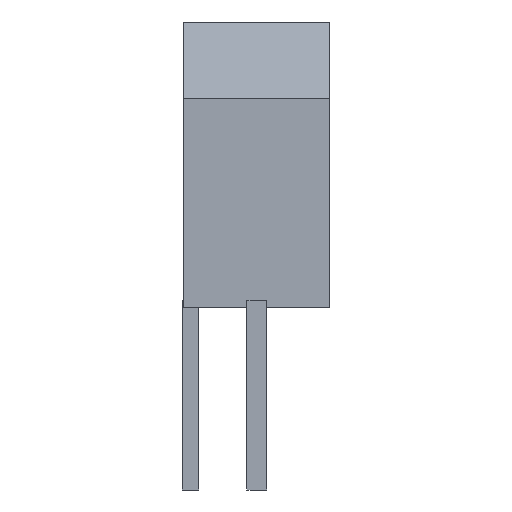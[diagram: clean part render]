
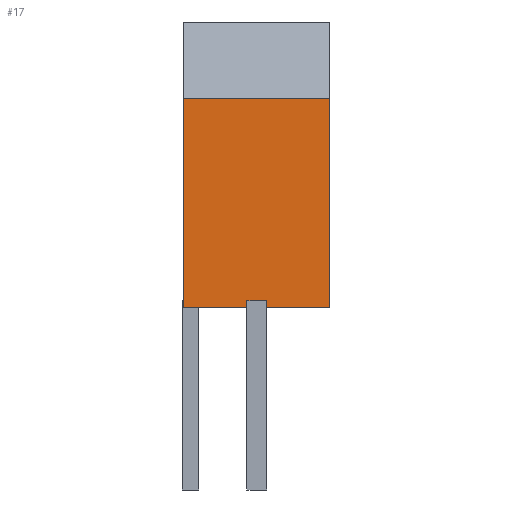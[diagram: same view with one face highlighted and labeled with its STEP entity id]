
A CAD part, front view. The second image highlights one B-rep face of the part: STEP entity #17.
In plain terms, the highlighted planar face has unit normal (0, -1, 0).
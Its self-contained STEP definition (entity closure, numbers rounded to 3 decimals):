
#17 = ADVANCED_FACE('',(#18),#32,.T.);
#18 = FACE_BOUND('',#19,.F.);
#19 = EDGE_LOOP('',(#20,#55,#83,#111,#139,#167,#190,#218));
#20 = ORIENTED_EDGE('',*,*,#21,.F.);
#21 = EDGE_CURVE('',#22,#24,#26,.T.);
#22 = VERTEX_POINT('',#23);
#23 = CARTESIAN_POINT('',(7.95,23.1,14.));
#24 = VERTEX_POINT('',#25);
#25 = CARTESIAN_POINT('',(7.95,23.1,20.3));
#26 = SURFACE_CURVE('',#27,(#31,#43),.PCURVE_S1.);
#27 = LINE('',#28,#29);
#28 = CARTESIAN_POINT('',(7.95,23.1,14.));
#29 = VECTOR('',#30,1.);
#30 = DIRECTION('',(-0.,-0.,1.));
#31 = PCURVE('',#32,#37);
#32 = PLANE('',#33);
#33 = AXIS2_PLACEMENT_3D('',#34,#35,#36);
#34 = CARTESIAN_POINT('',(7.95,23.1,14.));
#35 = DIRECTION('',(-0.,-1.,-0.));
#36 = DIRECTION('',(0.,0.,-1.));
#37 = DEFINITIONAL_REPRESENTATION('',(#38),#42);
#38 = LINE('',#39,#40);
#39 = CARTESIAN_POINT('',(-0.,0.));
#40 = VECTOR('',#41,1.);
#41 = DIRECTION('',(-1.,0.));
#42 = ( GEOMETRIC_REPRESENTATION_CONTEXT(2) 
PARAMETRIC_REPRESENTATION_CONTEXT() REPRESENTATION_CONTEXT('2D SPACE',''
  ) );
#43 = PCURVE('',#44,#49);
#44 = PLANE('',#45);
#45 = AXIS2_PLACEMENT_3D('',#46,#47,#48);
#46 = CARTESIAN_POINT('',(7.95,28.,17.847));
#47 = DIRECTION('',(1.,-0.,-0.));
#48 = DIRECTION('',(0.,0.,1.));
#49 = DEFINITIONAL_REPRESENTATION('',(#50),#54);
#50 = LINE('',#51,#52);
#51 = CARTESIAN_POINT('',(-3.847,4.9));
#52 = VECTOR('',#53,1.);
#53 = DIRECTION('',(1.,-0.));
#54 = ( GEOMETRIC_REPRESENTATION_CONTEXT(2) 
PARAMETRIC_REPRESENTATION_CONTEXT() REPRESENTATION_CONTEXT('2D SPACE',''
  ) );
#55 = ORIENTED_EDGE('',*,*,#56,.T.);
#56 = EDGE_CURVE('',#22,#57,#59,.T.);
#57 = VERTEX_POINT('',#58);
#58 = CARTESIAN_POINT('',(6.05,23.1,14.));
#59 = SURFACE_CURVE('',#60,(#64,#71),.PCURVE_S1.);
#60 = LINE('',#61,#62);
#61 = CARTESIAN_POINT('',(7.95,23.1,14.));
#62 = VECTOR('',#63,1.);
#63 = DIRECTION('',(-1.,-0.,-0.));
#64 = PCURVE('',#32,#65);
#65 = DEFINITIONAL_REPRESENTATION('',(#66),#70);
#66 = LINE('',#67,#68);
#67 = CARTESIAN_POINT('',(-0.,0.));
#68 = VECTOR('',#69,1.);
#69 = DIRECTION('',(-0.,-1.));
#70 = ( GEOMETRIC_REPRESENTATION_CONTEXT(2) 
PARAMETRIC_REPRESENTATION_CONTEXT() REPRESENTATION_CONTEXT('2D SPACE',''
  ) );
#71 = PCURVE('',#72,#77);
#72 = PLANE('',#73);
#73 = AXIS2_PLACEMENT_3D('',#74,#75,#76);
#74 = CARTESIAN_POINT('',(7.95,32.9,14.));
#75 = DIRECTION('',(-0.,-0.,-1.));
#76 = DIRECTION('',(0.,1.,0.));
#77 = DEFINITIONAL_REPRESENTATION('',(#78),#82);
#78 = LINE('',#79,#80);
#79 = CARTESIAN_POINT('',(-9.8,0.));
#80 = VECTOR('',#81,1.);
#81 = DIRECTION('',(-0.,-1.));
#82 = ( GEOMETRIC_REPRESENTATION_CONTEXT(2) 
PARAMETRIC_REPRESENTATION_CONTEXT() REPRESENTATION_CONTEXT('2D SPACE',''
  ) );
#83 = ORIENTED_EDGE('',*,*,#84,.T.);
#84 = EDGE_CURVE('',#57,#85,#87,.T.);
#85 = VERTEX_POINT('',#86);
#86 = CARTESIAN_POINT('',(6.05,23.1,14.2));
#87 = SURFACE_CURVE('',#88,(#92,#99),.PCURVE_S1.);
#88 = LINE('',#89,#90);
#89 = CARTESIAN_POINT('',(6.05,23.1,11.25));
#90 = VECTOR('',#91,1.);
#91 = DIRECTION('',(-0.,-0.,1.));
#92 = PCURVE('',#32,#93);
#93 = DEFINITIONAL_REPRESENTATION('',(#94),#98);
#94 = LINE('',#95,#96);
#95 = CARTESIAN_POINT('',(2.75,-1.9));
#96 = VECTOR('',#97,1.);
#97 = DIRECTION('',(-1.,0.));
#98 = ( GEOMETRIC_REPRESENTATION_CONTEXT(2) 
PARAMETRIC_REPRESENTATION_CONTEXT() REPRESENTATION_CONTEXT('2D SPACE',''
  ) );
#99 = PCURVE('',#100,#105);
#100 = PLANE('',#101);
#101 = AXIS2_PLACEMENT_3D('',#102,#103,#104);
#102 = CARTESIAN_POINT('',(6.05,21.75,8.5));
#103 = DIRECTION('',(-1.,-0.,0.));
#104 = DIRECTION('',(0.,0.,-1.));
#105 = DEFINITIONAL_REPRESENTATION('',(#106),#110);
#106 = LINE('',#107,#108);
#107 = CARTESIAN_POINT('',(-2.75,-1.35));
#108 = VECTOR('',#109,1.);
#109 = DIRECTION('',(-1.,-0.));
#110 = ( GEOMETRIC_REPRESENTATION_CONTEXT(2) 
PARAMETRIC_REPRESENTATION_CONTEXT() REPRESENTATION_CONTEXT('2D SPACE',''
  ) );
#111 = ORIENTED_EDGE('',*,*,#112,.F.);
#112 = EDGE_CURVE('',#113,#85,#115,.T.);
#113 = VERTEX_POINT('',#114);
#114 = CARTESIAN_POINT('',(5.45,23.1,14.2));
#115 = SURFACE_CURVE('',#116,(#120,#127),.PCURVE_S1.);
#116 = LINE('',#117,#118);
#117 = CARTESIAN_POINT('',(7.,23.1,14.2));
#118 = VECTOR('',#119,1.);
#119 = DIRECTION('',(1.,-0.,-0.));
#120 = PCURVE('',#32,#121);
#121 = DEFINITIONAL_REPRESENTATION('',(#122),#126);
#122 = LINE('',#123,#124);
#123 = CARTESIAN_POINT('',(-0.2,-0.95));
#124 = VECTOR('',#125,1.);
#125 = DIRECTION('',(-0.,1.));
#126 = ( GEOMETRIC_REPRESENTATION_CONTEXT(2) 
PARAMETRIC_REPRESENTATION_CONTEXT() REPRESENTATION_CONTEXT('2D SPACE',''
  ) );
#127 = PCURVE('',#128,#133);
#128 = PLANE('',#129);
#129 = AXIS2_PLACEMENT_3D('',#130,#131,#132);
#130 = CARTESIAN_POINT('',(6.05,21.75,14.2));
#131 = DIRECTION('',(0.,0.,1.));
#132 = DIRECTION('',(1.,0.,0.));
#133 = DEFINITIONAL_REPRESENTATION('',(#134),#138);
#134 = LINE('',#135,#136);
#135 = CARTESIAN_POINT('',(0.95,1.35));
#136 = VECTOR('',#137,1.);
#137 = DIRECTION('',(1.,-0.));
#138 = ( GEOMETRIC_REPRESENTATION_CONTEXT(2) 
PARAMETRIC_REPRESENTATION_CONTEXT() REPRESENTATION_CONTEXT('2D SPACE',''
  ) );
#139 = ORIENTED_EDGE('',*,*,#140,.F.);
#140 = EDGE_CURVE('',#141,#113,#143,.T.);
#141 = VERTEX_POINT('',#142);
#142 = CARTESIAN_POINT('',(5.45,23.1,14.));
#143 = SURFACE_CURVE('',#144,(#148,#155),.PCURVE_S1.);
#144 = LINE('',#145,#146);
#145 = CARTESIAN_POINT('',(5.45,23.1,11.25));
#146 = VECTOR('',#147,1.);
#147 = DIRECTION('',(-0.,-0.,1.));
#148 = PCURVE('',#32,#149);
#149 = DEFINITIONAL_REPRESENTATION('',(#150),#154);
#150 = LINE('',#151,#152);
#151 = CARTESIAN_POINT('',(2.75,-2.5));
#152 = VECTOR('',#153,1.);
#153 = DIRECTION('',(-1.,0.));
#154 = ( GEOMETRIC_REPRESENTATION_CONTEXT(2) 
PARAMETRIC_REPRESENTATION_CONTEXT() REPRESENTATION_CONTEXT('2D SPACE',''
  ) );
#155 = PCURVE('',#156,#161);
#156 = PLANE('',#157);
#157 = AXIS2_PLACEMENT_3D('',#158,#159,#160);
#158 = CARTESIAN_POINT('',(5.45,21.75,8.5));
#159 = DIRECTION('',(-1.,-0.,0.));
#160 = DIRECTION('',(0.,0.,-1.));
#161 = DEFINITIONAL_REPRESENTATION('',(#162),#166);
#162 = LINE('',#163,#164);
#163 = CARTESIAN_POINT('',(-2.75,-1.35));
#164 = VECTOR('',#165,1.);
#165 = DIRECTION('',(-1.,-0.));
#166 = ( GEOMETRIC_REPRESENTATION_CONTEXT(2) 
PARAMETRIC_REPRESENTATION_CONTEXT() REPRESENTATION_CONTEXT('2D SPACE',''
  ) );
#167 = ORIENTED_EDGE('',*,*,#168,.T.);
#168 = EDGE_CURVE('',#141,#169,#171,.T.);
#169 = VERTEX_POINT('',#170);
#170 = CARTESIAN_POINT('',(3.55,23.1,14.));
#171 = SURFACE_CURVE('',#172,(#176,#183),.PCURVE_S1.);
#172 = LINE('',#173,#174);
#173 = CARTESIAN_POINT('',(7.95,23.1,14.));
#174 = VECTOR('',#175,1.);
#175 = DIRECTION('',(-1.,-0.,-0.));
#176 = PCURVE('',#32,#177);
#177 = DEFINITIONAL_REPRESENTATION('',(#178),#182);
#178 = LINE('',#179,#180);
#179 = CARTESIAN_POINT('',(-0.,0.));
#180 = VECTOR('',#181,1.);
#181 = DIRECTION('',(-0.,-1.));
#182 = ( GEOMETRIC_REPRESENTATION_CONTEXT(2) 
PARAMETRIC_REPRESENTATION_CONTEXT() REPRESENTATION_CONTEXT('2D SPACE',''
  ) );
#183 = PCURVE('',#72,#184);
#184 = DEFINITIONAL_REPRESENTATION('',(#185),#189);
#185 = LINE('',#186,#187);
#186 = CARTESIAN_POINT('',(-9.8,0.));
#187 = VECTOR('',#188,1.);
#188 = DIRECTION('',(-0.,-1.));
#189 = ( GEOMETRIC_REPRESENTATION_CONTEXT(2) 
PARAMETRIC_REPRESENTATION_CONTEXT() REPRESENTATION_CONTEXT('2D SPACE',''
  ) );
#190 = ORIENTED_EDGE('',*,*,#191,.T.);
#191 = EDGE_CURVE('',#169,#192,#194,.T.);
#192 = VERTEX_POINT('',#193);
#193 = CARTESIAN_POINT('',(3.55,23.1,20.3));
#194 = SURFACE_CURVE('',#195,(#199,#206),.PCURVE_S1.);
#195 = LINE('',#196,#197);
#196 = CARTESIAN_POINT('',(3.55,23.1,14.));
#197 = VECTOR('',#198,1.);
#198 = DIRECTION('',(-0.,-0.,1.));
#199 = PCURVE('',#32,#200);
#200 = DEFINITIONAL_REPRESENTATION('',(#201),#205);
#201 = LINE('',#202,#203);
#202 = CARTESIAN_POINT('',(-0.,-4.4));
#203 = VECTOR('',#204,1.);
#204 = DIRECTION('',(-1.,0.));
#205 = ( GEOMETRIC_REPRESENTATION_CONTEXT(2) 
PARAMETRIC_REPRESENTATION_CONTEXT() REPRESENTATION_CONTEXT('2D SPACE',''
  ) );
#206 = PCURVE('',#207,#212);
#207 = PLANE('',#208);
#208 = AXIS2_PLACEMENT_3D('',#209,#210,#211);
#209 = CARTESIAN_POINT('',(3.55,28.,17.847));
#210 = DIRECTION('',(1.,-0.,-0.));
#211 = DIRECTION('',(0.,0.,1.));
#212 = DEFINITIONAL_REPRESENTATION('',(#213),#217);
#213 = LINE('',#214,#215);
#214 = CARTESIAN_POINT('',(-3.847,4.9));
#215 = VECTOR('',#216,1.);
#216 = DIRECTION('',(1.,-0.));
#217 = ( GEOMETRIC_REPRESENTATION_CONTEXT(2) 
PARAMETRIC_REPRESENTATION_CONTEXT() REPRESENTATION_CONTEXT('2D SPACE',''
  ) );
#218 = ORIENTED_EDGE('',*,*,#219,.F.);
#219 = EDGE_CURVE('',#24,#192,#220,.T.);
#220 = SURFACE_CURVE('',#221,(#225,#232),.PCURVE_S1.);
#221 = LINE('',#222,#223);
#222 = CARTESIAN_POINT('',(7.95,23.1,20.3));
#223 = VECTOR('',#224,1.);
#224 = DIRECTION('',(-1.,-0.,-0.));
#225 = PCURVE('',#32,#226);
#226 = DEFINITIONAL_REPRESENTATION('',(#227),#231);
#227 = LINE('',#228,#229);
#228 = CARTESIAN_POINT('',(-6.3,0.));
#229 = VECTOR('',#230,1.);
#230 = DIRECTION('',(-0.,-1.));
#231 = ( GEOMETRIC_REPRESENTATION_CONTEXT(2) 
PARAMETRIC_REPRESENTATION_CONTEXT() REPRESENTATION_CONTEXT('2D SPACE',''
  ) );
#232 = PCURVE('',#233,#238);
#233 = PLANE('',#234);
#234 = AXIS2_PLACEMENT_3D('',#235,#236,#237);
#235 = CARTESIAN_POINT('',(7.95,23.1,20.3));
#236 = DIRECTION('',(-0.,-0.648,0.761));
#237 = DIRECTION('',(0.,-0.761,-0.648));
#238 = DEFINITIONAL_REPRESENTATION('',(#239),#243);
#239 = LINE('',#240,#241);
#240 = CARTESIAN_POINT('',(-0.,0.));
#241 = VECTOR('',#242,1.);
#242 = DIRECTION('',(-0.,-1.));
#243 = ( GEOMETRIC_REPRESENTATION_CONTEXT(2) 
PARAMETRIC_REPRESENTATION_CONTEXT() REPRESENTATION_CONTEXT('2D SPACE',''
  ) );
